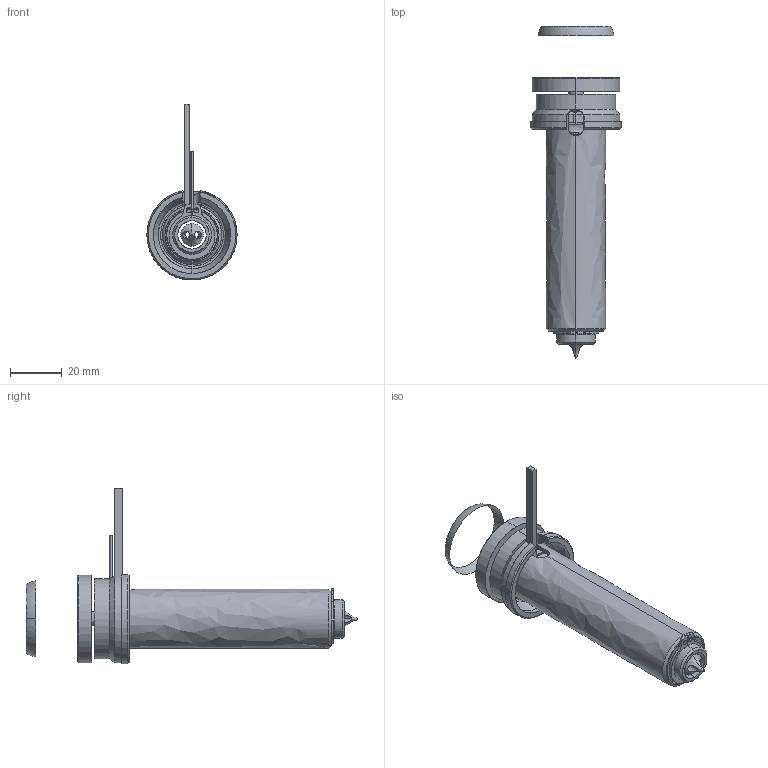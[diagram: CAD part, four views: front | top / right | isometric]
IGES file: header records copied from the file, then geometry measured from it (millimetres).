
Start section: SolidWorks IGES file using analytic representation for surfaces
Global section: file name: C:\Users\luca.EMPAD\Desktop\TEM\UGDL2602-M-A [Øf=0.6 ØC=5.5].IGS; native system: SolidWorks 2012; preprocessor: SolidWorks 2012; author: luca; date: 120330.144924; units: millimetre
Bounding box: 35 x 128.84 x 68.3 mm (x, y, z)
Surface area: 27056.8 mm2 (no closed solid volume)
Topology: 0 solids, 0 shells, 133 faces, 2148 edges, 2144 vertices
Faces by surface type: revolution 76, bspline 57
